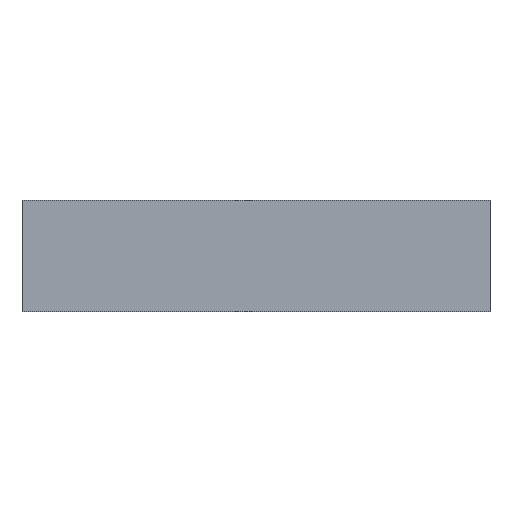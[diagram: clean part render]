
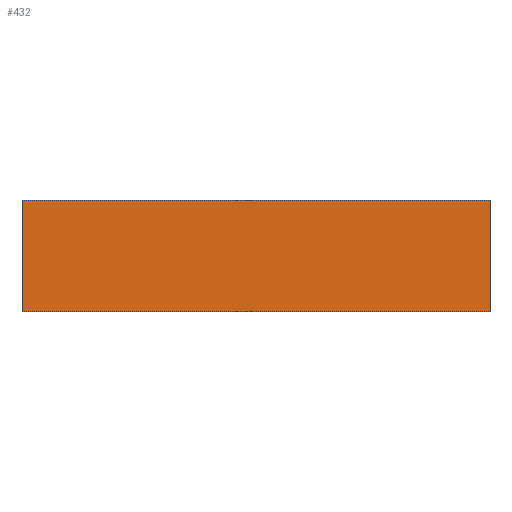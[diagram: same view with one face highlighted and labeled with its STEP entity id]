
A CAD part, front view. The second image highlights one B-rep face of the part: STEP entity #432.
In plain terms, the highlighted planar face has unit normal (0, -1, 0).
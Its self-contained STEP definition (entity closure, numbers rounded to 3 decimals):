
#23 = VERTEX_POINT ( 'NONE', #74 ) ;
#24 = VERTEX_POINT ( 'NONE', #100 ) ;
#39 = VERTEX_POINT ( 'NONE', #95 ) ;
#42 = VERTEX_POINT ( 'NONE', #86 ) ;
#74 = CARTESIAN_POINT ( 'NONE',  ( 251., 0., 0. ) ) ;
#86 = CARTESIAN_POINT ( 'NONE',  ( -251., 0., 120. ) ) ;
#95 = CARTESIAN_POINT ( 'NONE',  ( -251., 0., 0. ) ) ;
#100 = CARTESIAN_POINT ( 'NONE',  ( 251., 0., 120. ) ) ;
#197 = PLANE ( 'NONE',  #448 ) ;
#200 = CARTESIAN_POINT ( 'NONE',  ( -251., 0., 120. ) ) ;
#206 = DIRECTION ( 'NONE',  ( 0., 1., 0. ) ) ;
#207 = DIRECTION ( 'NONE',  ( -1., 0., 0. ) ) ;
#244 = CARTESIAN_POINT ( 'NONE',  ( -251., 0., 0. ) ) ;
#247 = DIRECTION ( 'NONE',  ( 1., 0., 0. ) ) ;
#268 = CARTESIAN_POINT ( 'NONE',  ( 251., 0., 120. ) ) ;
#269 = DIRECTION ( 'NONE',  ( 0., 0., -1. ) ) ;
#302 = CARTESIAN_POINT ( 'NONE',  ( -251., 0., 120. ) ) ;
#303 = DIRECTION ( 'NONE',  ( 0., 0., -1. ) ) ;
#338 = CARTESIAN_POINT ( 'NONE',  ( -251., 0., 120. ) ) ;
#339 = DIRECTION ( 'NONE',  ( 1., 0., 0. ) ) ;
#432 = ADVANCED_FACE ( 'NONE', ( #571 ), #197, .F. ) ;
#448 = AXIS2_PLACEMENT_3D ( 'NONE', #200, #206, #207 ) ;
#454 = EDGE_CURVE ( 'NONE', #39, #23, #797, .T. ) ;
#470 = EDGE_CURVE ( 'NONE', #24, #23, #842, .T. ) ;
#496 = EDGE_CURVE ( 'NONE', #42, #39, #876, .T. ) ;
#522 = EDGE_CURVE ( 'NONE', #42, #24, #911, .T. ) ;
#571 = FACE_OUTER_BOUND ( 'NONE', #613, .T. ) ;
#613 = EDGE_LOOP ( 'NONE', ( #801, #659, #725, #633 ) ) ;
#633 = ORIENTED_EDGE ( 'NONE', *, *, #496, .T. ) ;
#659 = ORIENTED_EDGE ( 'NONE', *, *, #470, .F. ) ;
#725 = ORIENTED_EDGE ( 'NONE', *, *, #522, .F. ) ;
#792 = VECTOR ( 'NONE', #247, 1000. ) ;
#797 = LINE ( 'NONE', #244, #792 ) ;
#801 = ORIENTED_EDGE ( 'NONE', *, *, #454, .T. ) ;
#842 = LINE ( 'NONE', #268, #843 ) ;
#843 = VECTOR ( 'NONE', #269, 1000. ) ;
#876 = LINE ( 'NONE', #302, #877 ) ;
#877 = VECTOR ( 'NONE', #303, 1000. ) ;
#911 = LINE ( 'NONE', #338, #912 ) ;
#912 = VECTOR ( 'NONE', #339, 1000. ) ;
